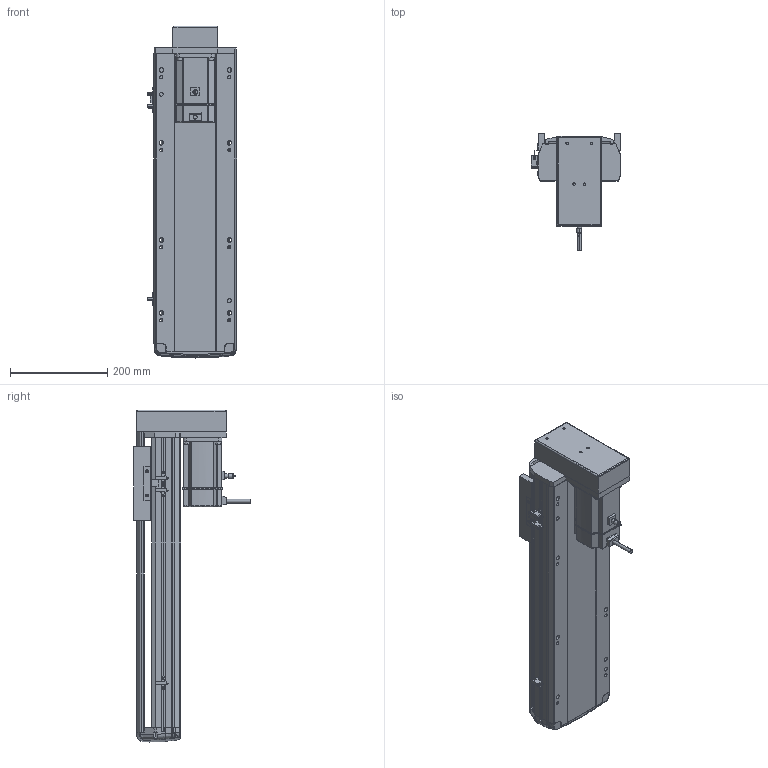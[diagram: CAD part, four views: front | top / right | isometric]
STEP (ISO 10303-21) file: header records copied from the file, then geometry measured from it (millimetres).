
FILE_DESCRIPTION (( 'STEP AP214' ), '1' );
FILE_NAME ('RTH17-XX-400-M-M75-C4.STEP', '2025-10-24T10:23:11', ( '' ), ( '' ), 'SwSTEP 2.0', 'SolidWorks 2018', '' );
FILE_SCHEMA (( 'AUTOMOTIVE_DESIGN' ));
Length unit declared in the file: millimetre
Products named in the file (10): N_RTH17-M-018盖子^RTH17-XX-XX-M-M75-C4（方程式）; N_RTH17-M-011底座^RTH17-XX-XX-M-M75-C4（方程式）; N_RTH17-M-007上盖^RTH17-XX-XX-M-M75-C4（方程式）; RTH17-XX-400-M-M75-C4; N_RTH17-GY-001P^RTH17-XX-XX-M-M75-C4（方程式）; N_OMRON EE-SX672 換覜ん^RTH17-XX-XX-M-M75-C4ㄗ源最宒ㄘ; N_M75^RTH17-XX-XX-M-M75-C4（方程式）; N_RTH-BL-012 感应片(外置)^RTH17-XX-XX-M-M75-C4（方程式）; N_RTH17-E-004丝杆螺母连接座^RTH17-XX-XX-M-M75-C4（方程式）; N_RTH17-M-008-P75电机安装板下折750W^RTH17-XX-XX-M-M75-C4（方程式）
Assembly tree (11 placements, depth 2):
  RTH17-XX-400-M-M75-C4
    N_RTH17-M-011底座^RTH17-XX-XX-M-M75-C4（方程式）
    N_RTH17-M-007上盖^RTH17-XX-XX-M-M75-C4（方程式）
    N_M75^RTH17-XX-XX-M-M75-C4（方程式）
    N_OMRON EE-SX672 換覜ん^RTH17-XX-XX-M-M75-C4ㄗ源最宒ㄘ  x3
    N_RTH-BL-012 感应片(外置)^RTH17-XX-XX-M-M75-C4（方程式）
    N_RTH17-M-008-P75电机安装板下折750W^RTH17-XX-XX-M-M75-C4（方程式）
    N_RTH17-M-018盖子^RTH17-XX-XX-M-M75-C4（方程式）
    N_RTH17-E-004丝杆螺母连接座^RTH17-XX-XX-M-M75-C4（方程式）
    N_RTH17-GY-001P^RTH17-XX-XX-M-M75-C4（方程式）
Bounding box: 183.5 x 240.7 x 683.27 mm (x, y, z)
Volume: 6117515.6 mm3; surface area: 893602.4 mm2
Topology: 10 solids, 12 shells, 1725 faces, 4742 edges, 3068 vertices
Faces by surface type: plane 826, cylinder 485, bspline 377, cone 28, torus 9
Entity records: 49931 total; most frequent: CARTESIAN_POINT 20012, ORIENTED_EDGE 6508, DIRECTION 5404, EDGE_CURVE 3258, VERTEX_POINT 2104, AXIS2_PLACEMENT_3D 1807, VECTOR 1790, LINE 1790
